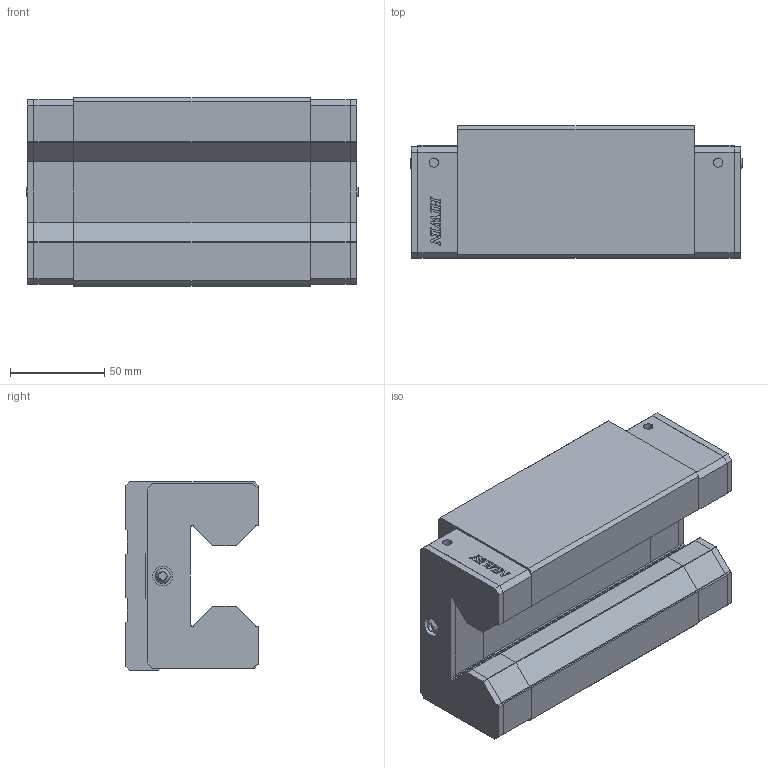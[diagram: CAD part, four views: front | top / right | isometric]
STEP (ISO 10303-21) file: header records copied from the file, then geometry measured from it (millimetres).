
FILE_DESCRIPTION(/* description */ (''),/* implementation_level */ '2;1');
FILE_NAME(/* name */ 'URH55CAZAH_GW202603049636.stp',/* time_stamp */ '2026-03-30T23:00:45+08:00',/* author */ ('User'),/* organization */ (''),/* preprocessor_version */ 'ST-DEVELOPER v20.1',/* originating_system */ 'Autodesk Inventor 2026',/* authorisation */ '');
FILE_SCHEMA (('AUTOMOTIVE_DESIGN { 1 0 10303 214 3 1 1 }'));
Products named in the file (3): URH55CAZAH_GW202603049636; URH55C_左封; 31010069
Assembly tree (3 placements, depth 2):
  URH55CAZAH_GW202603049636
    URH55C_左封
    31010069  x2
Bounding box: 175.9 x 70 x 100 mm (x, y, z)
Volume: 890495.8 mm3; surface area: 123020.2 mm2
Topology: 7 solids, 7 shells, 514 faces, 1420 edges, 944 vertices
Faces by surface type: plane 372, cylinder 134, cone 6, bspline 2
Full cylindrical faces by diameter (mm): 1.5 x2, 4.917 x4, 6 x2, 6.5 x2, 8 x2, 10.106 x6, 10.3 x2, 10.5 x2
Entity records: 16100 total; most frequent: CARTESIAN_POINT 2848, ORIENTED_EDGE 2776, DIRECTION 2666, EDGE_CURVE 1388, LINE 1122, VECTOR 1122, VERTEX_POINT 927, AXIS2_PLACEMENT_3D 772
